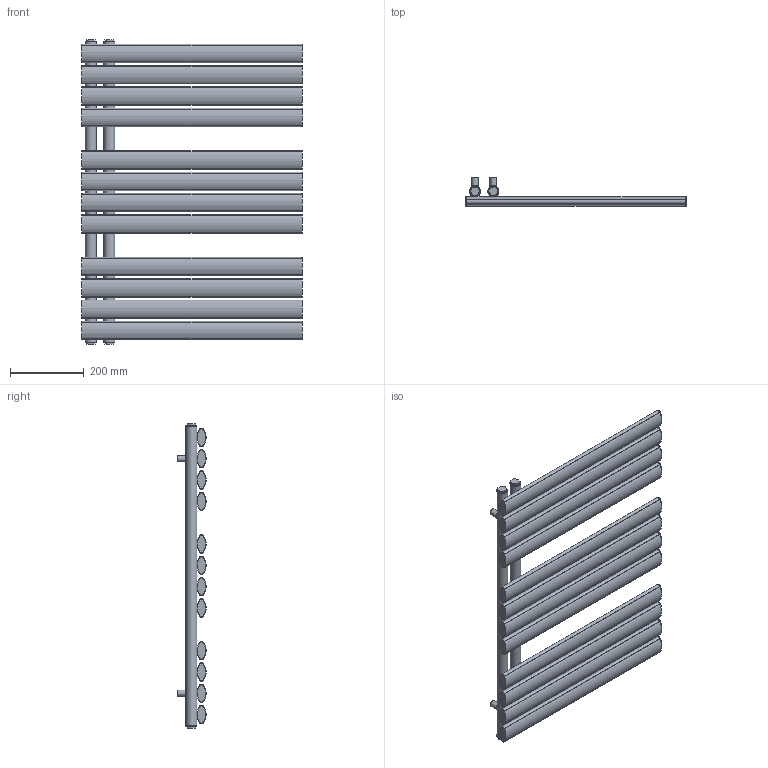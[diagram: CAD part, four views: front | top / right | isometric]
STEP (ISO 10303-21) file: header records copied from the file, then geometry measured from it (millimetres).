
FILE_DESCRIPTION(/* description */ (''),/* implementation_level */ '2;1');
FILE_NAME(/* name */ 'C:\Grzejniki\13DLUXRAD\łazienkowe\FLAG BIS\FLAG BIS 816x600.iam.stp',/* time_stamp */ '2016-06-28T17:34:56+02:00',/* author */ ('m.szydziak'),/* organization */ (''),/* preprocessor_version */ 'ST-DEVELOPER v16.5',/* originating_system */ 'Autodesk Inventor 2017',/* authorisation */ '');
FILE_SCHEMA (('AUTOMOTIVE_DESIGN { 1 0 10303 214 3 1 1 }'));
Length unit declared in the file: millimetre
Products named in the file (5): FLAG BIS 816x600; fi30x1,5x816; 50x25x1,2x600; uchwyt stały; korek
Assembly tree (22 placements, depth 2):
  FLAG BIS 816x600
    fi30x1,5x816  x2
    50x25x1,2x600  x12
    uchwyt stały  x4
    korek  x4
Bounding box: 600 x 76.86 x 828 mm (x, y, z)
Volume: 1268611 mm3; surface area: 2029208.5 mm2
Topology: 22 solids, 22 shells, 284 faces, 738 edges, 526 vertices
Faces by surface type: cylinder 164, plane 120
Full cylindrical faces by diameter (mm): 5 x24, 6 x24, 15 x4, 18 x4, 18.631 x4, 24 x4, 27 x2, 30 x2
Entity records: 2739 total; most frequent: CARTESIAN_POINT 1242, DIRECTION 274, ORIENTED_EDGE 230, AXIS2_PLACEMENT_3D 121, EDGE_CURVE 115, EDGE_LOOP 108, VERTEX_POINT 95, FACE_BOUND 55
